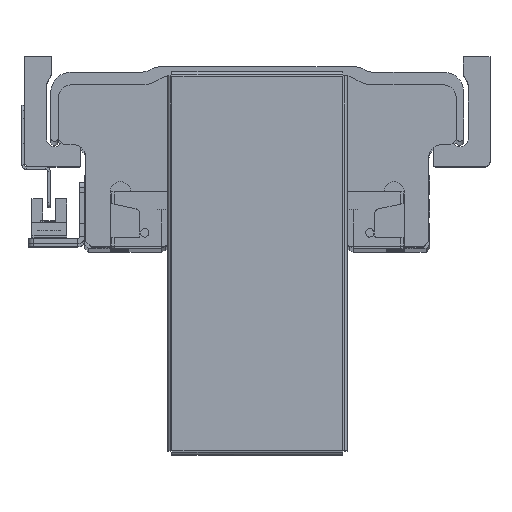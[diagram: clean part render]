
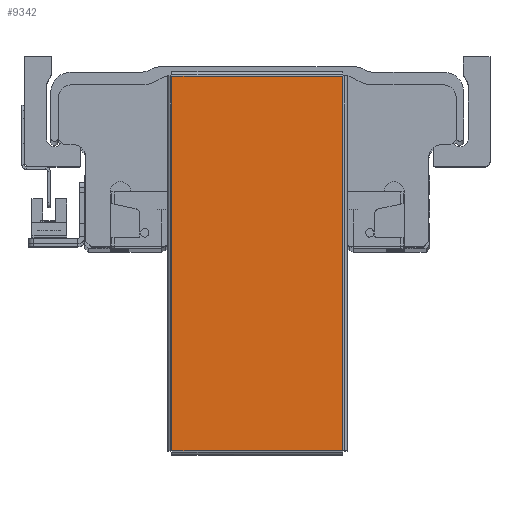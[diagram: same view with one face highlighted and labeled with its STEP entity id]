
A CAD part, top view. The second image highlights one B-rep face of the part: STEP entity #9342.
In plain terms, the highlighted planar face has unit normal (0, 0, 1) as drawn and (0, -1, 0) by its records, which use the part's own axes.
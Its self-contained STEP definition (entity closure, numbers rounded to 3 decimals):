
#6067 = VERTEX_POINT ( 'NONE', #10629 ) ;
#6089 = VERTEX_POINT ( 'NONE', #10602 ) ;
#7963 = EDGE_LOOP ( 'NONE', ( #46839, #46888, #46897, #46846 ) ) ;
#9342 = ADVANCED_FACE ( 'NONE', ( #32509 ), #38102, .F. ) ;
#10602 = CARTESIAN_POINT ( 'NONE',  ( -73.263, -1., -33.363 ) ) ;
#10629 = CARTESIAN_POINT ( 'NONE',  ( 73.263, -1., -33.363 ) ) ;
#16721 = VECTOR ( 'NONE', #17724, 1000. ) ;
#16732 = LINE ( 'NONE', #17710, #16721 ) ;
#16784 = LINE ( 'NONE', #17808, #16802 ) ;
#16787 = VECTOR ( 'NONE', #17743, 1000. ) ;
#16796 = VECTOR ( 'NONE', #17762, 1000. ) ;
#16802 = VECTOR ( 'NONE', #17811, 1000. ) ;
#16816 = LINE ( 'NONE', #17760, #16796 ) ;
#16820 = LINE ( 'NONE', #17745, #16787 ) ;
#17710 = CARTESIAN_POINT ( 'NONE',  ( -73.293, -1., -33.363 ) ) ;
#17724 = DIRECTION ( 'NONE',  ( 1., 0., 0. ) ) ;
#17743 = DIRECTION ( 'NONE',  ( 0., 0., 1. ) ) ;
#17745 = CARTESIAN_POINT ( 'NONE',  ( 73.263, -1., -33.393 ) ) ;
#17760 = CARTESIAN_POINT ( 'NONE',  ( -73.263, -1., 33.393 ) ) ;
#17762 = DIRECTION ( 'NONE',  ( 0., 0., -1. ) ) ;
#17808 = CARTESIAN_POINT ( 'NONE',  ( 73.293, -1., 33.363 ) ) ;
#17811 = DIRECTION ( 'NONE',  ( -1., 0., 0. ) ) ;
#19856 = EDGE_CURVE ( 'NONE', #6089, #6067, #16732, .T. ) ;
#19875 = EDGE_CURVE ( 'NONE', #6067, #32030, #16820, .T. ) ;
#19880 = EDGE_CURVE ( 'NONE', #30273, #6089, #16816, .T. ) ;
#19887 = EDGE_CURVE ( 'NONE', #32030, #30273, #16784, .T. ) ;
#30273 = VERTEX_POINT ( 'NONE', #39051 ) ;
#30895 = AXIS2_PLACEMENT_3D ( 'NONE', #38119, #38131, #38087 ) ;
#32030 = VERTEX_POINT ( 'NONE', #39242 ) ;
#32509 = FACE_OUTER_BOUND ( 'NONE', #7963, .T. ) ;
#38087 = DIRECTION ( 'NONE',  ( 0., 0., 1. ) ) ;
#38102 = PLANE ( 'NONE',  #30895 ) ;
#38119 = CARTESIAN_POINT ( 'NONE',  ( 0., -1., 0. ) ) ;
#38131 = DIRECTION ( 'NONE',  ( 0., 1., 0. ) ) ;
#39051 = CARTESIAN_POINT ( 'NONE',  ( -73.263, -1., 33.363 ) ) ;
#39242 = CARTESIAN_POINT ( 'NONE',  ( 73.263, -1., 33.363 ) ) ;
#46839 = ORIENTED_EDGE ( 'NONE', *, *, #19887, .T. ) ;
#46846 = ORIENTED_EDGE ( 'NONE', *, *, #19875, .T. ) ;
#46888 = ORIENTED_EDGE ( 'NONE', *, *, #19880, .T. ) ;
#46897 = ORIENTED_EDGE ( 'NONE', *, *, #19856, .T. ) ;
